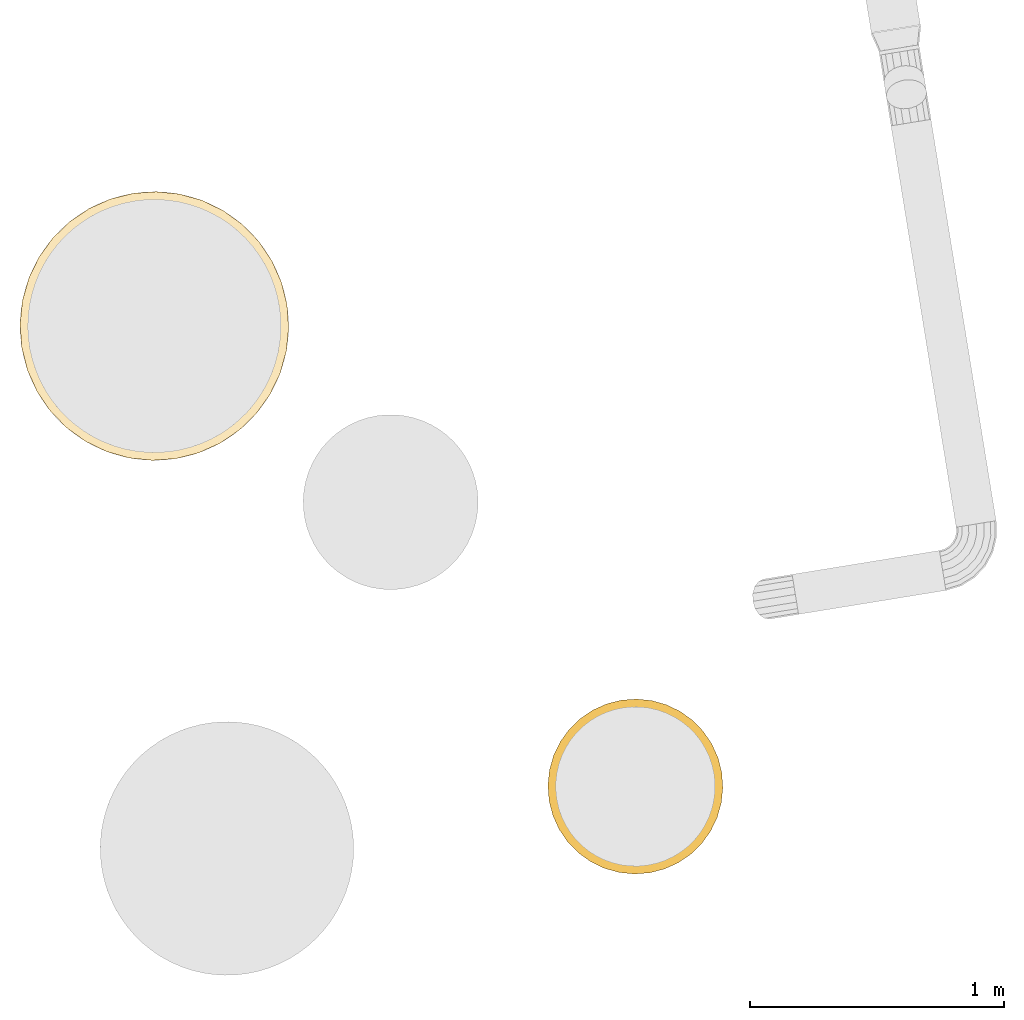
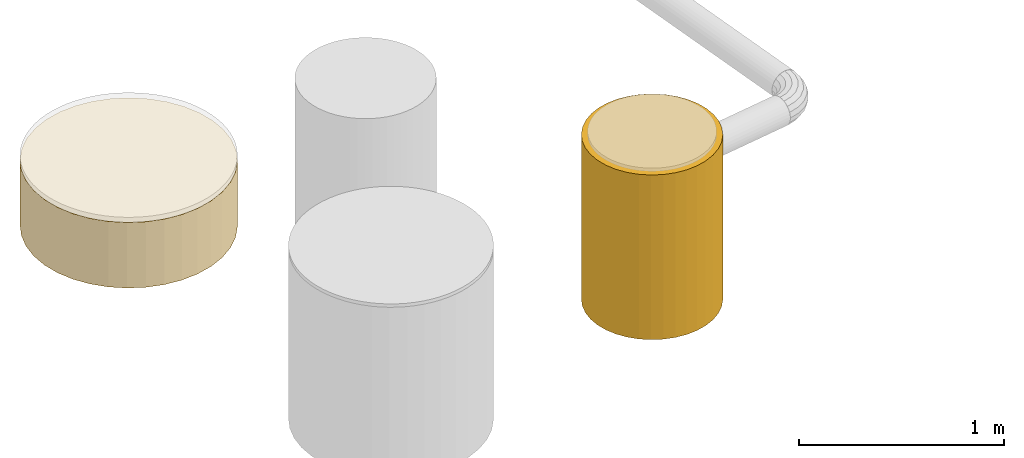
# One storey, part 2 of 6: 2 coverings.
"""IFC2X3 building model written with IfcOpenShell, lengths in millimetres."""

from ifc_helpers import new_model, entity, si_unit, converted_unit, derived_unit, direction, frame, origin, origin_with_axes, place, context, subcontext, project, spatial, faceted_brep, type_object, element, save


model = new_model("IFC2X3")

# Units and contexts
plan_context = context("Plan", 3, precision=1e-05, world=origin_with_axes())
model_context = context("Model", 3, precision=0.01, world=origin(), true_north=direction((6.12323399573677e-17, 1.0)))
body_context = subcontext(model_context, "Body", "Model", "MODEL_VIEW")
ifc_project = project(units=[converted_unit("PLANEANGLEUNIT", "DEGREE", entity("IfcPositiveLengthMeasure", 0.0174532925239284), si_unit("PLANEANGLEUNIT", "RADIAN"), dimensions=[0, 0, 0, 0, 0, 0, 0]), si_unit("AREAUNIT", "SQUARE_METRE"), si_unit("LENGTHUNIT", "METRE", prefix="MILLI"), si_unit("MASSUNIT", "GRAM", prefix="KILO"), si_unit("POWERUNIT", "WATT"), si_unit("PRESSUREUNIT", "PASCAL", prefix="KILO"), si_unit("FORCEUNIT", "NEWTON", prefix="KILO"), si_unit("ELECTRICVOLTAGEUNIT", "VOLT"), si_unit("ELECTRICCURRENTUNIT", "AMPERE"), si_unit("THERMODYNAMICTEMPERATUREUNIT", "DEGREE_CELSIUS"), si_unit("TIMEUNIT", "SECOND"), si_unit("VOLUMEUNIT", "CUBIC_METRE"), derived_unit("LINEARVELOCITYUNIT", [(si_unit("LENGTHUNIT", "METRE"), 1), (si_unit("TIMEUNIT", "SECOND"), -1)]), derived_unit("VOLUMETRICFLOWRATEUNIT", [(si_unit("VOLUMEUNIT", "CUBIC_METRE"), 1), (si_unit("TIMEUNIT", "SECOND"), -1)]), derived_unit("THERMALTRANSMITTANCEUNIT", [(si_unit("POWERUNIT", "WATT"), 1), (si_unit("THERMODYNAMICTEMPERATUREUNIT", "KELVIN"), -1), (si_unit("AREAUNIT", "SQUARE_METRE"), -1)]), derived_unit("SOUNDPRESSUREUNIT", [(si_unit("PRESSUREUNIT", "PASCAL"), 1)])], contexts=[model_context, plan_context])

# Site, building, storey
site_placement = place(None, frame((-0.00071070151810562, 0.00438415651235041, 0.0), z_axis=(0.0, 0.0, 1.0), x_axis=(-0.160236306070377, 0.987078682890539, 0.0)))
site = spatial("IfcSite", under=ifc_project, at=site_placement, Name="Default", CompositionType="ELEMENT")
building_placement = place(site_placement, origin_with_axes())
building = spatial("IfcBuilding", under=site, at=building_placement, CompositionType="ELEMENT")
storey_placement = place(building_placement, frame((0.0, 0.0, 55630.0), z_axis=(0.0, 0.0, 1.0), x_axis=(1.0, 0.0, 0.0)))
storey = spatial("IfcBuildingStorey", under=building, at=storey_placement, Name="Nivå E", CompositionType="ELEMENT", Elevation=55630.0)

# Coverings
covering_type = type_object("IfcCoveringType", Name="Duct Insulation:EI 120-60", PredefinedType="INSULATION")
covering_1_placement = place(storey_placement, origin_with_axes())
element("IfcCovering", 1, at=covering_1_placement, inside=storey, type_object=covering_type, Name="Duct Insulation:EI 120-60", ObjectType="Duct Insulation:EI 120-60", PredefinedType="INSULATION", context=body_context, shape_type="Brep", body=[
    faceted_brep([(766497.619644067, -501688.383412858, 2369.9999999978), (766489.567753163, -501780.416947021, 2369.9999999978), (766489.567753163, -501780.416947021, 2760.00000000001), (766497.619644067, -501688.383412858, 2760.00000000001), (766489.567753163, -501596.349878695, 2369.9999999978), (766489.567753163, -501596.349878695, 2760.00000000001), (766465.656733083, -501507.112736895, 2369.9999999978), (766465.656733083, -501507.112736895, 2760.00000000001), (766426.613108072, -501423.383412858, 2369.9999999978), (766426.613108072, -501423.383412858, 2760.00000000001), (766373.62319892, -501347.705979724, 2369.9999999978), (766373.62319892, -501347.705979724, 2760.00000000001), (766308.2970772, -501282.379858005, 2369.9999999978), (766308.2970772, -501282.379858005, 2760.00000000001), (766232.619644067, -501229.389948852, 2369.9999999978), (766232.619644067, -501229.389948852, 2760.00000000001), (766148.890320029, -501190.346323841, 2369.9999999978), (766148.890320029, -501190.346323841, 2760.00000000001), (766059.65317823, -501166.435303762, 2369.9999999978), (766059.65317823, -501166.435303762, 2760.00000000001), (765967.619644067, -501158.383412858, 2369.9999999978), (765967.619644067, -501158.383412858, 2760.00000000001), (765875.586109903, -501166.435303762, 2369.9999999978), (765875.586109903, -501166.435303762, 2760.00000000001), (765786.348968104, -501190.346323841, 2369.9999999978), (765786.348968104, -501190.346323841, 2760.00000000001), (765702.619644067, -501229.389948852, 2369.9999999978), (765702.619644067, -501229.389948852, 2760.00000000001), (765626.942210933, -501282.379858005, 2369.9999999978), (765626.942210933, -501282.379858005, 2760.00000000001), (765561.616089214, -501347.705979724, 2369.9999999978), (765561.616089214, -501347.705979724, 2760.00000000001), (765508.626180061, -501423.383412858, 2369.9999999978), (765508.626180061, -501423.383412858, 2760.00000000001), (765469.58255505, -501507.112736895, 2369.9999999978), (765469.58255505, -501507.112736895, 2760.00000000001), (765445.67153497, -501596.349878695, 2369.9999999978), (765445.67153497, -501596.349878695, 2760.00000000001), (765437.619644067, -501688.383412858, 2369.9999999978), (765437.619644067, -501688.383412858, 2760.00000000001), (765445.67153497, -501780.416947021, 2369.9999999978), (765445.67153497, -501780.416947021, 2760.00000000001), (765469.58255505, -501869.654088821, 2369.9999999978), (765469.58255505, -501869.654088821, 2760.00000000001), (765508.626180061, -501953.383412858, 2369.9999999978), (765508.626180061, -501953.383412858, 2760.00000000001), (765561.616089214, -502029.060845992, 2369.9999999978), (765561.616089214, -502029.060845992, 2760.00000000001), (765626.942210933, -502094.386967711, 2369.9999999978), (765626.942210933, -502094.386967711, 2760.00000000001), (765702.619644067, -502147.376876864, 2369.9999999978), (765702.619644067, -502147.376876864, 2760.00000000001), (765786.348968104, -502186.420501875, 2369.9999999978), (765786.348968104, -502186.420501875, 2760.00000000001), (765875.586109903, -502210.331521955, 2369.9999999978), (765875.586109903, -502210.331521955, 2760.00000000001), (765967.619644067, -502218.383412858, 2369.9999999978), (765967.619644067, -502218.383412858, 2760.00000000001), (766059.65317823, -502210.331521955, 2369.9999999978), (766059.65317823, -502210.331521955, 2760.00000000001), (766148.890320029, -502186.420501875, 2369.9999999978), (766148.890320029, -502186.420501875, 2760.00000000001), (766232.619644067, -502147.376876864, 2369.9999999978), (766232.619644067, -502147.376876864, 2760.00000000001), (766308.2970772, -502094.386967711, 2369.9999999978), (766308.2970772, -502094.386967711, 2760.00000000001), (766373.62319892, -502029.060845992, 2369.9999999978), (766373.62319892, -502029.060845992, 2760.00000000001), (766426.613108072, -501953.383412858, 2369.9999999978), (766426.613108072, -501953.383412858, 2760.00000000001), (766465.656733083, -501869.654088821, 2369.9999999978), (766465.656733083, -501869.654088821, 2760.00000000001)], [[[0, 1, 2, 3]], [[4, 0, 3, 5]], [[6, 4, 5, 7]], [[8, 6, 7, 9]], [[10, 8, 9, 11]], [[12, 10, 11, 13]], [[14, 12, 13, 15]], [[16, 14, 15, 17]], [[18, 16, 17, 19]], [[20, 18, 19, 21]], [[22, 20, 21, 23]], [[24, 22, 23, 25]], [[26, 24, 25, 27]], [[28, 26, 27, 29]], [[30, 28, 29, 31]], [[32, 30, 31, 33]], [[34, 32, 33, 35]], [[36, 34, 35, 37]], [[38, 36, 37, 39]], [[40, 38, 39, 41]], [[42, 40, 41, 43]], [[44, 42, 43, 45]], [[46, 44, 45, 47]], [[48, 46, 47, 49]], [[50, 48, 49, 51]], [[52, 50, 51, 53]], [[54, 52, 53, 55]], [[56, 54, 55, 57]], [[58, 56, 57, 59]], [[60, 58, 59, 61]], [[62, 60, 61, 63]], [[64, 62, 63, 65]], [[66, 64, 65, 67]], [[68, 66, 67, 69]], [[70, 68, 69, 71]], [[1, 70, 71, 2]], [[3, 2, 71, 69, 67, 65, 63, 61, 59, 57, 55, 53, 51, 49, 47, 45, 43, 41, 39, 37, 35, 33, 31, 29, 27, 25, 23, 21, 19, 17, 15, 13, 11, 9, 7, 5]], [[4, 6, 8, 10, 12, 14, 16, 18, 20, 22, 24, 26, 28, 30, 32, 34, 36, 38, 40, 42, 44, 46, 48, 50, 52, 54, 56, 58, 60, 62, 64, 66, 68, 70, 1, 0]]], orient=[[False], [False], [False], [False], [False], [False], [False], [False], [False], [False], [False], [False], [False], [False], [False], [False], [False], [False], [False], [False], [False], [False], [False], [False], [False], [False], [False], [False], [False], [False], [False], [False], [False], [False], [False], [False], [False], [False]]),
])
covering_2_placement = place(storey_placement, origin_with_axes())
element("IfcCovering", 2, at=covering_2_placement, inside=storey, type_object=covering_type, Name="Duct Insulation:EI 120-60", ObjectType="Duct Insulation:EI 120-60", PredefinedType="INSULATION", context=body_context, shape_type="Brep", body=[
    faceted_brep([(764215.857180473, -503270.00861507, 2369.99999999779), (764210.615855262, -503329.917236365, 2369.99999999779), (764210.615855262, -503329.917236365, 3350.00000000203), (764215.857180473, -503270.00861507, 3350.00000000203), (764210.615855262, -503210.099993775, 2369.99999999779), (764210.615855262, -503210.099993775, 3350.00000000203), (764195.051134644, -503152.011665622, 2369.99999999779), (764195.051134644, -503152.011665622, 3350.00000000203), (764169.635944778, -503097.50861507, 2369.99999999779), (764169.635944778, -503097.50861507, 3350.00000000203), (764135.142513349, -503048.246889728, 2369.99999999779), (764135.142513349, -503048.246889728, 3350.00000000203), (764092.618905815, -503005.723282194, 2369.99999999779), (764092.618905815, -503005.723282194, 3350.00000000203), (764043.357180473, -502971.229850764, 2369.99999999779), (764043.357180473, -502971.229850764, 3350.00000000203), (763988.85412992, -502945.814660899, 2369.99999999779), (763988.85412992, -502945.814660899, 3350.00000000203), (763930.765801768, -502930.249940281, 2369.99999999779), (763930.765801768, -502930.249940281, 3350.00000000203), (763870.857180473, -502925.00861507, 2369.99999999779), (763870.857180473, -502925.00861507, 3350.00000000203), (763810.948559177, -502930.249940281, 2369.99999999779), (763810.948559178, -502930.249940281, 3350.00000000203), (763752.860231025, -502945.814660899, 2369.99999999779), (763752.860231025, -502945.814660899, 3350.00000000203), (763698.357180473, -502971.229850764, 2369.99999999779), (763698.357180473, -502971.229850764, 3350.00000000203), (763649.095455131, -503005.723282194, 2369.99999999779), (763649.095455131, -503005.723282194, 3350.00000000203), (763606.571847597, -503048.246889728, 2369.99999999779), (763606.571847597, -503048.246889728, 3350.00000000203), (763572.078416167, -503097.50861507, 2369.99999999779), (763572.078416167, -503097.50861507, 3350.00000000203), (763546.663226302, -503152.011665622, 2369.99999999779), (763546.663226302, -503152.011665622, 3350.00000000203), (763531.098505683, -503210.099993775, 2369.99999999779), (763531.098505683, -503210.099993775, 3350.00000000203), (763525.857180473, -503270.00861507, 2369.99999999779), (763525.857180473, -503270.00861507, 3350.00000000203), (763531.098505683, -503329.917236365, 2369.99999999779), (763531.098505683, -503329.917236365, 3350.00000000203), (763546.663226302, -503388.005564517, 2369.99999999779), (763546.663226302, -503388.005564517, 3350.00000000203), (763572.078416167, -503442.50861507, 2369.99999999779), (763572.078416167, -503442.50861507, 3350.00000000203), (763606.571847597, -503491.770340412, 2369.99999999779), (763606.571847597, -503491.770340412, 3350.00000000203), (763649.095455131, -503534.293947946, 2369.99999999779), (763649.095455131, -503534.293947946, 3350.00000000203), (763698.357180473, -503568.787379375, 2369.99999999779), (763698.357180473, -503568.787379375, 3350.00000000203), (763752.860231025, -503594.202569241, 2369.99999999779), (763752.860231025, -503594.202569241, 3350.00000000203), (763810.948559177, -503609.767289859, 2369.99999999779), (763810.948559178, -503609.767289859, 3350.00000000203), (763870.857180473, -503615.00861507, 2369.99999999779), (763870.857180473, -503615.00861507, 3350.00000000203), (763930.765801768, -503609.767289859, 2369.99999999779), (763930.765801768, -503609.767289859, 3350.00000000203), (763988.85412992, -503594.202569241, 2369.99999999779), (763988.85412992, -503594.202569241, 3350.00000000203), (764043.357180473, -503568.787379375, 2369.99999999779), (764043.357180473, -503568.787379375, 3350.00000000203), (764092.618905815, -503534.293947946, 2369.99999999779), (764092.618905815, -503534.293947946, 3350.00000000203), (764135.142513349, -503491.770340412, 2369.99999999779), (764135.142513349, -503491.770340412, 3350.00000000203), (764169.635944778, -503442.50861507, 2369.99999999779), (764169.635944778, -503442.50861507, 3350.00000000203), (764195.051134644, -503388.005564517, 2369.99999999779), (764195.051134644, -503388.005564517, 3350.00000000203)], [[[0, 1, 2, 3]], [[4, 0, 3, 5]], [[6, 4, 5, 7]], [[8, 6, 7, 9]], [[10, 8, 9, 11]], [[12, 10, 11, 13]], [[14, 12, 13, 15]], [[16, 14, 15, 17]], [[18, 16, 17, 19]], [[20, 18, 19, 21]], [[22, 20, 21, 23]], [[24, 22, 23, 25]], [[26, 24, 25, 27]], [[28, 26, 27, 29]], [[30, 28, 29, 31]], [[32, 30, 31, 33]], [[34, 32, 33, 35]], [[36, 34, 35, 37]], [[38, 36, 37, 39]], [[40, 38, 39, 41]], [[42, 40, 41, 43]], [[44, 42, 43, 45]], [[46, 44, 45, 47]], [[48, 46, 47, 49]], [[50, 48, 49, 51]], [[52, 50, 51, 53]], [[54, 52, 53, 55]], [[56, 54, 55, 57]], [[58, 56, 57, 59]], [[60, 58, 59, 61]], [[62, 60, 61, 63]], [[64, 62, 63, 65]], [[66, 64, 65, 67]], [[68, 66, 67, 69]], [[70, 68, 69, 71]], [[1, 70, 71, 2]], [[3, 2, 71, 69, 67, 65, 63, 61, 59, 57, 55, 53, 51, 49, 47, 45, 43, 41, 39, 37, 35, 33, 31, 29, 27, 25, 23, 21, 19, 17, 15, 13, 11, 9, 7, 5]], [[4, 6, 8, 10, 12, 14, 16, 18, 20, 22, 24, 26, 28, 30, 32, 34, 36, 38, 40, 42, 44, 46, 48, 50, 52, 54, 56, 58, 60, 62, 64, 66, 68, 70, 1, 0]]], orient=[[False], [False], [False], [False], [False], [False], [False], [False], [False], [False], [False], [False], [False], [False], [False], [False], [False], [False], [False], [False], [False], [False], [False], [False], [False], [False], [False], [False], [False], [False], [False], [False], [False], [False], [False], [False], [False], [False]]),
])

save(model, "model.ifc")
